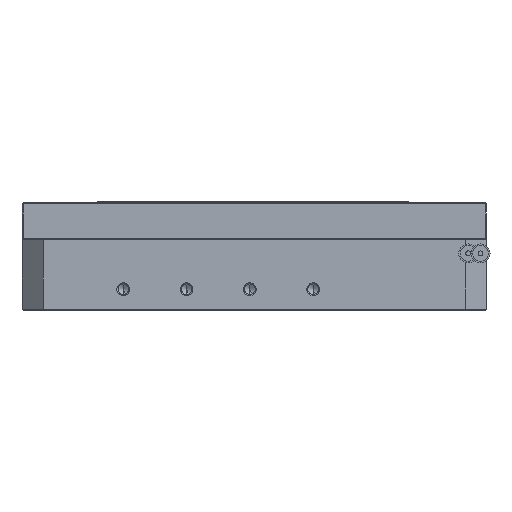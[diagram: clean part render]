
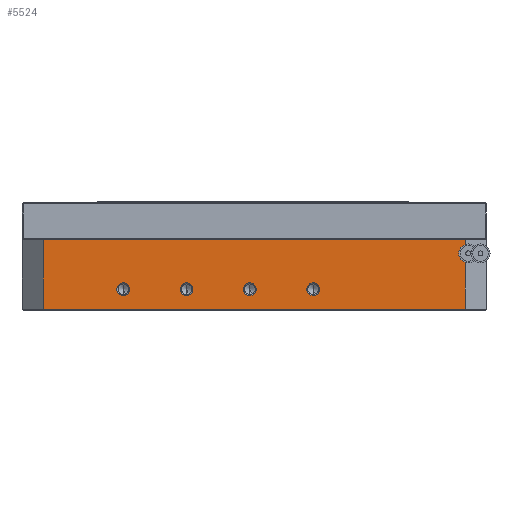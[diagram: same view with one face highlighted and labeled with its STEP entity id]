
A CAD part, left-side view. The second image highlights one B-rep face of the part: STEP entity #5524.
In plain terms, the highlighted planar face has unit normal (-1, 0, 0).
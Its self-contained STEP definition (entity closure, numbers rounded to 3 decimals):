
#667 = VECTOR ( 'NONE', #1827, 1000. ) ;
#837 = LINE ( 'NONE', #3371, #10879 ) ;
#931 = EDGE_CURVE ( 'NONE', #1196, #3967, #8522, .T. ) ;
#1196 = VERTEX_POINT ( 'NONE', #5249 ) ;
#1227 = CARTESIAN_POINT ( 'NONE',  ( -201.802, 15.022, 200.975 ) ) ;
#1319 = VERTEX_POINT ( 'NONE', #13880 ) ;
#1346 = DIRECTION ( 'NONE',  ( 0., 0., 1. ) ) ;
#1380 = EDGE_LOOP ( 'NONE', ( #7139, #3702 ) ) ;
#1384 = ORIENTED_EDGE ( 'NONE', *, *, #11196, .F. ) ;
#1443 = CIRCLE ( 'NONE', #20718, 3.025 ) ;
#1501 = DIRECTION ( 'NONE',  ( -1., 0., 0. ) ) ;
#1827 = DIRECTION ( 'NONE',  ( 0., 1., 0. ) ) ;
#1979 = CIRCLE ( 'NONE', #14056, 3.025 ) ;
#2089 = DIRECTION ( 'NONE',  ( -1., 0., 0. ) ) ;
#2333 = CARTESIAN_POINT ( 'NONE',  ( -201.802, 15.022, 204. ) ) ;
#2401 = CIRCLE ( 'NONE', #21219, 3.025 ) ;
#2722 = VERTEX_POINT ( 'NONE', #19304 ) ;
#2962 = DIRECTION ( 'NONE',  ( 0., 1., 0. ) ) ;
#3008 = CIRCLE ( 'NONE', #3426, 3.025 ) ;
#3220 = CARTESIAN_POINT ( 'NONE',  ( -201.802, -116.978, 219. ) ) ;
#3371 = CARTESIAN_POINT ( 'NONE',  ( -201.802, 83.022, 245. ) ) ;
#3426 = AXIS2_PLACEMENT_3D ( 'NONE', #13214, #9883, #14664 ) ;
#3618 = CARTESIAN_POINT ( 'NONE',  ( -201.802, 45.022, 207.025 ) ) ;
#3643 = CIRCLE ( 'NONE', #15538, 3.025 ) ;
#3646 = VECTOR ( 'NONE', #17313, 1000. ) ;
#3702 = ORIENTED_EDGE ( 'NONE', *, *, #3865, .F. ) ;
#3865 = EDGE_CURVE ( 'NONE', #5785, #17131, #1443, .T. ) ;
#3927 = EDGE_LOOP ( 'NONE', ( #18010, #14773 ) ) ;
#3967 = VERTEX_POINT ( 'NONE', #8411 ) ;
#4093 = EDGE_CURVE ( 'NONE', #14895, #11682, #7626, .T. ) ;
#4412 = DIRECTION ( 'NONE',  ( -1., 0., 0. ) ) ;
#5165 = DIRECTION ( 'NONE',  ( 0., 0., 1. ) ) ;
#5227 = CARTESIAN_POINT ( 'NONE',  ( -201.802, -44.978, 204. ) ) ;
#5249 = CARTESIAN_POINT ( 'NONE',  ( -201.802, 83.022, 194.5 ) ) ;
#5408 = EDGE_CURVE ( 'NONE', #20784, #14895, #17651, .T. ) ;
#5524 = ADVANCED_FACE ( 'NONE', ( #8332, #11687, #19732, #7817, #6259 ), #17622, .F. ) ;
#5542 = VERTEX_POINT ( 'NONE', #1227 ) ;
#5611 = DIRECTION ( 'NONE',  ( 0., 0., 1. ) ) ;
#5714 = ORIENTED_EDGE ( 'NONE', *, *, #18698, .F. ) ;
#5785 = VERTEX_POINT ( 'NONE', #16667 ) ;
#6259 = FACE_OUTER_BOUND ( 'NONE', #19551, .T. ) ;
#6319 = VERTEX_POINT ( 'NONE', #8963 ) ;
#7139 = ORIENTED_EDGE ( 'NONE', *, *, #15077, .F. ) ;
#7344 = DIRECTION ( 'NONE',  ( 0., 0., 1. ) ) ;
#7347 = EDGE_CURVE ( 'NONE', #2722, #13084, #9537, .T. ) ;
#7626 = LINE ( 'NONE', #16859, #20292 ) ;
#7658 = AXIS2_PLACEMENT_3D ( 'NONE', #17838, #19370, #2962 ) ;
#7817 = FACE_BOUND ( 'NONE', #10191, .T. ) ;
#7843 = CARTESIAN_POINT ( 'NONE',  ( -201.802, -116.978, 245. ) ) ;
#8278 = EDGE_CURVE ( 'NONE', #1319, #14776, #15434, .T. ) ;
#8332 = FACE_BOUND ( 'NONE', #3927, .T. ) ;
#8411 = CARTESIAN_POINT ( 'NONE',  ( -201.802, -116.978, 194.5 ) ) ;
#8426 = CARTESIAN_POINT ( 'NONE',  ( -201.802, -44.978, 200.975 ) ) ;
#8522 = LINE ( 'NONE', #8986, #3646 ) ;
#8614 = CARTESIAN_POINT ( 'NONE',  ( -201.802, 15.022, 204. ) ) ;
#8638 = CARTESIAN_POINT ( 'NONE',  ( -201.802, 45.022, 204. ) ) ;
#8963 = CARTESIAN_POINT ( 'NONE',  ( -201.802, 15.022, 207.025 ) ) ;
#8986 = CARTESIAN_POINT ( 'NONE',  ( -201.802, 93.022, 194.5 ) ) ;
#9081 = ORIENTED_EDGE ( 'NONE', *, *, #12434, .F. ) ;
#9270 = CARTESIAN_POINT ( 'NONE',  ( -201.802, -14.978, 204. ) ) ;
#9537 = CIRCLE ( 'NONE', #10297, 3.025 ) ;
#9569 = ORIENTED_EDGE ( 'NONE', *, *, #7347, .F. ) ;
#9571 = CARTESIAN_POINT ( 'NONE',  ( -201.802, -14.978, 204. ) ) ;
#9883 = DIRECTION ( 'NONE',  ( -1., 0., 0. ) ) ;
#9895 = CARTESIAN_POINT ( 'NONE',  ( -201.802, 83.022, 227.5 ) ) ;
#10191 = EDGE_LOOP ( 'NONE', ( #1384, #5714 ) ) ;
#10297 = AXIS2_PLACEMENT_3D ( 'NONE', #20349, #15302, #7344 ) ;
#10494 = ORIENTED_EDGE ( 'NONE', *, *, #5408, .T. ) ;
#10879 = VECTOR ( 'NONE', #18023, 1000. ) ;
#11196 = EDGE_CURVE ( 'NONE', #6319, #5542, #2401, .T. ) ;
#11359 = CARTESIAN_POINT ( 'NONE',  ( -201.802, -14.978, 207.025 ) ) ;
#11394 = ORIENTED_EDGE ( 'NONE', *, *, #17070, .T. ) ;
#11620 = EDGE_CURVE ( 'NONE', #13276, #1196, #837, .T. ) ;
#11682 = VERTEX_POINT ( 'NONE', #21274 ) ;
#11687 = FACE_BOUND ( 'NONE', #19932, .T. ) ;
#12283 = ORIENTED_EDGE ( 'NONE', *, *, #11620, .T. ) ;
#12434 = EDGE_CURVE ( 'NONE', #13084, #2722, #3643, .T. ) ;
#12606 = ORIENTED_EDGE ( 'NONE', *, *, #931, .T. ) ;
#13084 = VERTEX_POINT ( 'NONE', #3618 ) ;
#13214 = CARTESIAN_POINT ( 'NONE',  ( -201.802, -44.978, 204. ) ) ;
#13244 = VECTOR ( 'NONE', #17337, 1000. ) ;
#13276 = VERTEX_POINT ( 'NONE', #15303 ) ;
#13774 = AXIS2_PLACEMENT_3D ( 'NONE', #9270, #4412, #16013 ) ;
#13794 = DIRECTION ( 'NONE',  ( 0., 0., 1. ) ) ;
#13880 = CARTESIAN_POINT ( 'NONE',  ( -201.802, -44.978, 207.025 ) ) ;
#14056 = AXIS2_PLACEMENT_3D ( 'NONE', #2333, #15269, #13794 ) ;
#14157 = CARTESIAN_POINT ( 'NONE',  ( -201.802, -116.978, 245. ) ) ;
#14227 = EDGE_CURVE ( 'NONE', #11682, #13276, #19836, .T. ) ;
#14664 = DIRECTION ( 'NONE',  ( 0., 0., 1. ) ) ;
#14773 = ORIENTED_EDGE ( 'NONE', *, *, #19016, .F. ) ;
#14776 = VERTEX_POINT ( 'NONE', #8426 ) ;
#14895 = VERTEX_POINT ( 'NONE', #17096 ) ;
#15077 = EDGE_CURVE ( 'NONE', #17131, #5785, #15633, .T. ) ;
#15137 = DIRECTION ( 'NONE',  ( 0., 0., 1. ) ) ;
#15269 = DIRECTION ( 'NONE',  ( -1., 0., 0. ) ) ;
#15298 = LINE ( 'NONE', #7843, #19190 ) ;
#15302 = DIRECTION ( 'NONE',  ( -1., 0., 0. ) ) ;
#15303 = CARTESIAN_POINT ( 'NONE',  ( -201.802, 83.022, 227.5 ) ) ;
#15304 = DIRECTION ( 'NONE',  ( 0., 0., 1. ) ) ;
#15434 = CIRCLE ( 'NONE', #20320, 3.025 ) ;
#15538 = AXIS2_PLACEMENT_3D ( 'NONE', #8638, #2089, #15304 ) ;
#15633 = CIRCLE ( 'NONE', #13774, 3.025 ) ;
#16013 = DIRECTION ( 'NONE',  ( 0., 0., 1. ) ) ;
#16667 = CARTESIAN_POINT ( 'NONE',  ( -201.802, -14.978, 200.975 ) ) ;
#16859 = CARTESIAN_POINT ( 'NONE',  ( -201.802, -116.978, 245. ) ) ;
#17070 = EDGE_CURVE ( 'NONE', #3967, #20784, #15298, .T. ) ;
#17096 = CARTESIAN_POINT ( 'NONE',  ( -201.802, -116.978, 223. ) ) ;
#17131 = VERTEX_POINT ( 'NONE', #11359 ) ;
#17313 = DIRECTION ( 'NONE',  ( 0., -1., 0. ) ) ;
#17337 = DIRECTION ( 'NONE',  ( 0., 0., 1. ) ) ;
#17622 = PLANE ( 'NONE',  #7658 ) ;
#17651 = LINE ( 'NONE', #14157, #13244 ) ;
#17838 = CARTESIAN_POINT ( 'NONE',  ( -201.802, 93.022, 245. ) ) ;
#18010 = ORIENTED_EDGE ( 'NONE', *, *, #8278, .F. ) ;
#18023 = DIRECTION ( 'NONE',  ( 0., 0., -1. ) ) ;
#18350 = ORIENTED_EDGE ( 'NONE', *, *, #4093, .T. ) ;
#18456 = DIRECTION ( 'NONE',  ( -1., 0., 0. ) ) ;
#18698 = EDGE_CURVE ( 'NONE', #5542, #6319, #1979, .T. ) ;
#19016 = EDGE_CURVE ( 'NONE', #14776, #1319, #3008, .T. ) ;
#19023 = ORIENTED_EDGE ( 'NONE', *, *, #14227, .T. ) ;
#19190 = VECTOR ( 'NONE', #1346, 1000. ) ;
#19304 = CARTESIAN_POINT ( 'NONE',  ( -201.802, 45.022, 200.975 ) ) ;
#19370 = DIRECTION ( 'NONE',  ( 1., 0., 0. ) ) ;
#19551 = EDGE_LOOP ( 'NONE', ( #12283, #12606, #11394, #10494, #18350, #19023 ) ) ;
#19732 = FACE_BOUND ( 'NONE', #1380, .T. ) ;
#19836 = LINE ( 'NONE', #9895, #667 ) ;
#19932 = EDGE_LOOP ( 'NONE', ( #9081, #9569 ) ) ;
#20129 = DIRECTION ( 'NONE',  ( -1., 0., 0. ) ) ;
#20292 = VECTOR ( 'NONE', #15137, 1000. ) ;
#20320 = AXIS2_PLACEMENT_3D ( 'NONE', #5227, #18456, #5165 ) ;
#20349 = CARTESIAN_POINT ( 'NONE',  ( -201.802, 45.022, 204. ) ) ;
#20718 = AXIS2_PLACEMENT_3D ( 'NONE', #9571, #1501, #20999 ) ;
#20784 = VERTEX_POINT ( 'NONE', #3220 ) ;
#20999 = DIRECTION ( 'NONE',  ( 0., 0., 1. ) ) ;
#21219 = AXIS2_PLACEMENT_3D ( 'NONE', #8614, #20129, #5611 ) ;
#21274 = CARTESIAN_POINT ( 'NONE',  ( -201.802, -116.978, 227.5 ) ) ;
